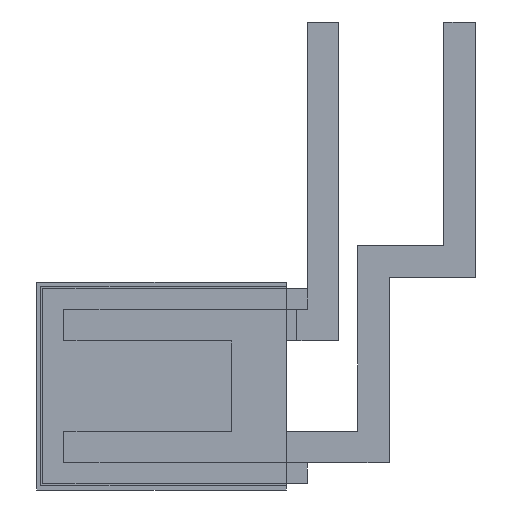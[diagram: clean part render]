
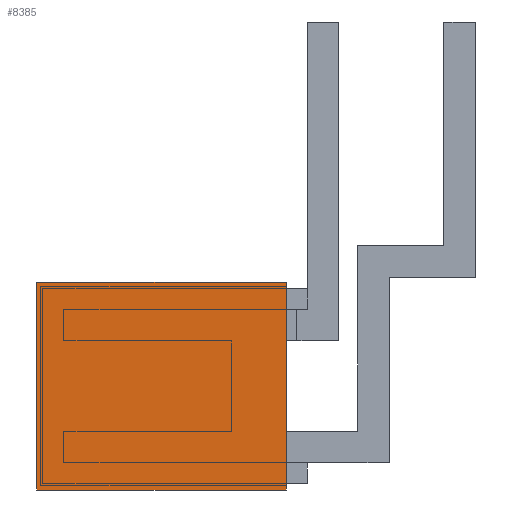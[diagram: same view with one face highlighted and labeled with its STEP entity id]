
A CAD part, left-side view. The second image highlights one B-rep face of the part: STEP entity #8385.
In plain terms, the highlighted planar face has unit normal (-1, 0, 0).
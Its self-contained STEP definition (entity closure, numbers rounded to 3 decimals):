
#8195=DIRECTION('',(0.,0.,1.));
#8196=VECTOR('',#8195,9.9);
#8197=CARTESIAN_POINT('',(0.,1.,0.));
#8198=LINE('',#8197,#8196);
#8207=DIRECTION('',(0.,-1.,0.));
#8208=VECTOR('',#8207,11.9);
#8209=CARTESIAN_POINT('',(0.,12.9,0.));
#8210=LINE('',#8209,#8208);
#8211=DIRECTION('',(0.,0.,-1.));
#8212=VECTOR('',#8211,9.9);
#8213=CARTESIAN_POINT('',(0.,12.9,9.9));
#8214=LINE('',#8213,#8212);
#8215=DIRECTION('',(0.,1.,0.));
#8216=VECTOR('',#8215,11.9);
#8217=CARTESIAN_POINT('',(0.,1.,9.9));
#8218=LINE('',#8217,#8216);
#8227=CARTESIAN_POINT('',(0.,1.,9.9));
#8228=CARTESIAN_POINT('',(0.,12.9,9.9));
#8229=VERTEX_POINT('',#8227);
#8230=VERTEX_POINT('',#8228);
#8231=CARTESIAN_POINT('',(0.,12.9,0.));
#8232=VERTEX_POINT('',#8231);
#8233=CARTESIAN_POINT('',(0.,1.,0.));
#8234=VERTEX_POINT('',#8233);
#8372=CARTESIAN_POINT('',(0.,-13.,0.3));
#8373=DIRECTION('',(-1.,0.,0.));
#8374=DIRECTION('',(0.,0.,1.));
#8375=AXIS2_PLACEMENT_3D('',#8372,#8373,#8374);
#8376=PLANE('',#8375);
#8377=ORIENTED_EDGE('',*,*,#8349,.F.);
#8378=ORIENTED_EDGE('',*,*,#8363,.F.);
#8380=ORIENTED_EDGE('',*,*,#8379,.F.);
#8382=ORIENTED_EDGE('',*,*,#8381,.F.);
#8383=EDGE_LOOP('',(#8377,#8378,#8380,#8382));
#8384=FACE_OUTER_BOUND('',#8383,.F.);
#8349=EDGE_CURVE('',#8234,#8229,#8198,.T.);
#8363=EDGE_CURVE('',#8232,#8234,#8210,.T.);
#8379=EDGE_CURVE('',#8230,#8232,#8214,.T.);
#8381=EDGE_CURVE('',#8229,#8230,#8218,.T.);
#8385=ADVANCED_FACE('',(#8384),#8376,.T.);
